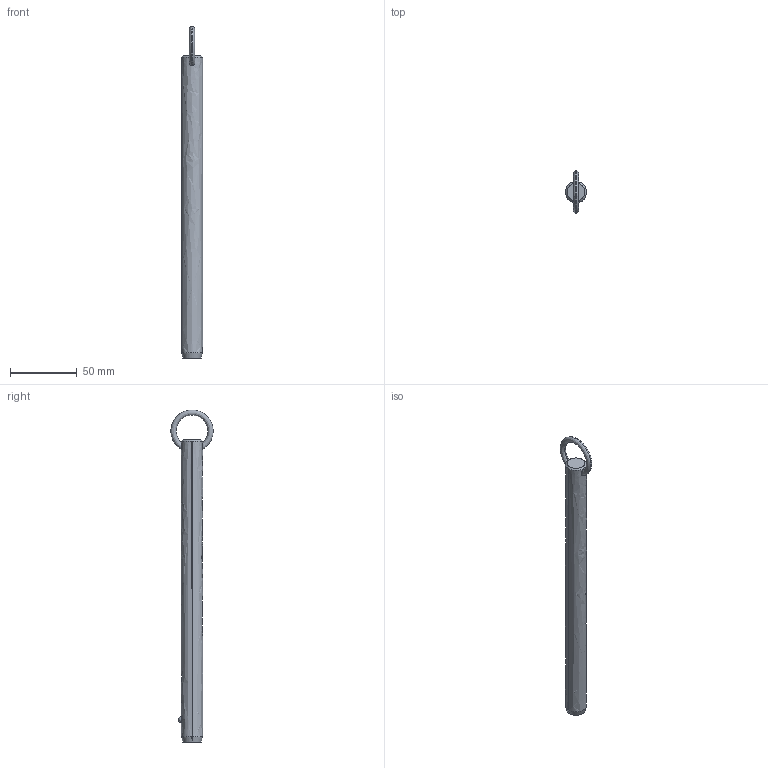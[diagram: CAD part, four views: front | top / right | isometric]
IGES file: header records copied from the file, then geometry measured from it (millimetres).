
Start section: SolidWorks IGES file using analytic representation for surfaces
Global section: file name: C:\Users\liam_\OneDrive\Documents\WORK\Work for WixRoyd\Job Files\J-00019 - Matt Davis CAD Checking\04. CAD Drawings\automotion20190605\P1250.2_v2\P1250.2_v2_20190729_IGES\P1250.062-780.igs; native system: SolidWorks 2017; preprocessor: SolidWorks 2017; author: liam_; date: 190729.234553; units: millimetre
Bounding box: 15.8 x 31.68 x 248.8 mm (x, y, z)
Surface area: 12421.6 mm2 (no closed solid volume)
Topology: 0 solids, 0 shells, 12 faces, 292 edges, 290 vertices
Faces by surface type: revolution 8, bspline 4
